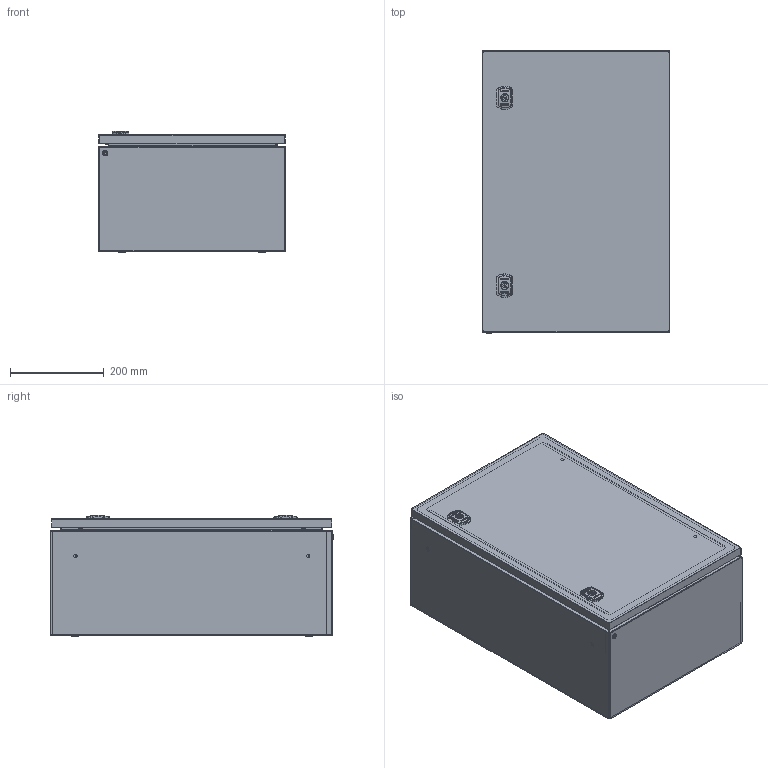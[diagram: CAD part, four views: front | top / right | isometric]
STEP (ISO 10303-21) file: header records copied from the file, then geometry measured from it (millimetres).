
FILE_DESCRIPTION(('Open CASCADE Model'),'2;1');
FILE_NAME('Open CASCADE Shape Model','2025-01-21T00:07:02',('Author'),( 'Open CASCADE'),'Open CASCADE STEP processor 7.8','Open CASCADE 7.8' ,'Unknown');
FILE_SCHEMA(('AUTOMOTIVE_DESIGN { 1 0 10303 214 1 1 1 1 }'));
Length unit declared in the file: millimetre
Products named in the file (29): Compound1; Compound2; Compound3; Compound4; Solid1; Solid2; Solid3; Solid4; Compound5; Solid5; Solid6; Solid7; Solid8; Compound6; Compound7; Solid9; Solid10; Solid11; Solid12; Compound8; Solid13; Solid14; Solid15; Solid16; Solid17; Solid18; Solid19; Solid20; Solid21
Assembly tree (51 placements, depth 5):
  Compound1
    Compound2
      Compound3
        Compound4
          Solid1
          Solid2
          Solid3  x4
          Solid4  x4
        Compound5  x2
          Solid5
        Solid6  x2
        Solid7  x2
        Solid8  x2
      Compound6
        Compound7
          Solid9
          Solid10  x2
          Solid11  x2
        Solid12
        Compound8  x2
          Solid13
          Solid14
          Solid15
          Solid16
          Solid17
      Solid18  x4
      Solid19
      Solid20  x4
    Solid21  x5
Bounding box: 400 x 601 x 258.01 mm (x, y, z)
Volume: 1987015.9 mm3; surface area: 2720664.4 mm2
Topology: 48 solids, 48 shells, 4218 faces, 10768 edges, 6814 vertices
Faces by surface type: plane 1967, cylinder 1236, bspline 513, torus 274, cone 164, sphere 56, revolution 8
Full cylindrical faces by diameter (mm): 4 x36, 5.5 x4, 8 x5
Entity records: 152228 total; most frequent: CARTESIAN_POINT 87129, ORIENTED_EDGE 13876, DIRECTION 12619, EDGE_CURVE 6938, VERTEX_POINT 4440, LINE 4373, VECTOR 4373, AXIS2_PLACEMENT_3D 4121
